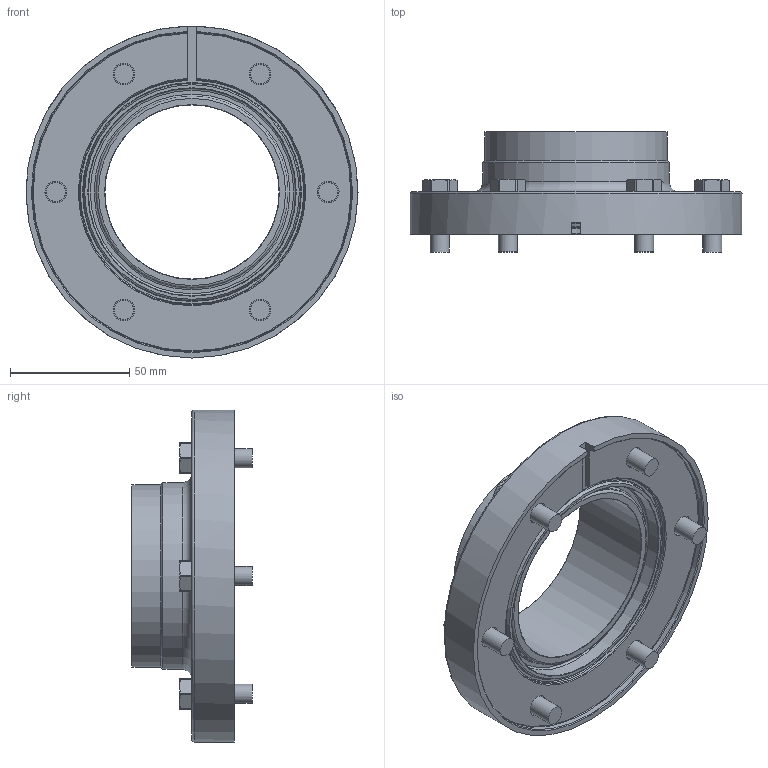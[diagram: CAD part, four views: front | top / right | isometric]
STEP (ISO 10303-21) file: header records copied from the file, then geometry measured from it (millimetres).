
FILE_DESCRIPTION(/* description */ ('STEP AP203'),/* implementation_level */ '2;1');
FILE_NAME(/* name */ 'E40625',/* time_stamp */ '2024-09-24T11:16:14+02:00',/* author */ ('License CC BY-ND 4.0'),/* organization */ ('CADENAS'),/* preprocessor_version */ 'ST-DEVELOPER v19.3',/* originating_system */ 'PARTsolutions',/* authorisation */ ' ');
FILE_SCHEMA (('CONFIG_CONTROL_DESIGN'));
Length unit declared in the file: millimetre
Products named in the file (3): E40625; P_MZ_Z_1847_p1; P_MZ_Z_1893_P2
Assembly tree (7 placements, depth 2):
  E40625
    P_MZ_Z_1847_p1
    P_MZ_Z_1893_P2  x6
Bounding box: 139 x 50.3 x 139 mm (x, y, z)
Volume: 177315.7 mm3; surface area: 56411.7 mm2
Topology: 7 solids, 7 shells, 183 faces, 418 edges, 265 vertices
Faces by surface type: plane 106, cone 40, cylinder 26, torus 11
Full cylindrical faces by diameter (mm): 8 x6, 8.9 x6, 9.1 x6, 72.9 x1, 76.2 x1, 78.2 x1, 80.35 x1, 86.85 x1, 139 x1
Entity records: 1789 total; most frequent: CARTESIAN_POINT 353, DIRECTION 286, ORIENTED_EDGE 232, AXIS2_PLACEMENT_3D 125, EDGE_CURVE 116, EDGE_LOOP 108, FACE_BOUND 108, VERTEX_POINT 88
